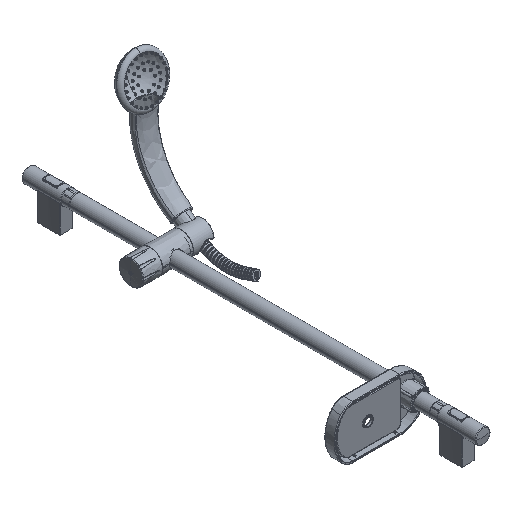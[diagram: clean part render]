
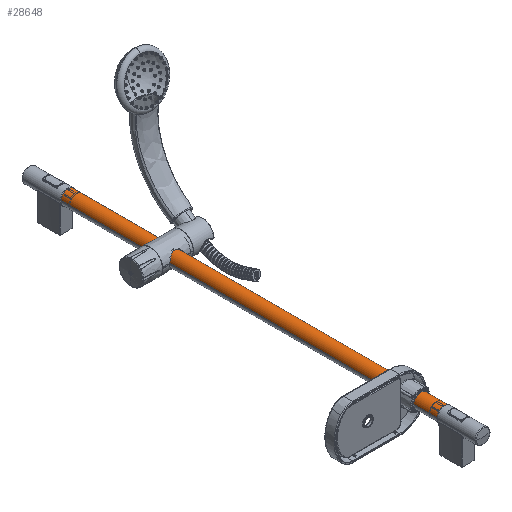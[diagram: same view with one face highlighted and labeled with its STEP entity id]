
A CAD part, isometric view. The second image highlights one B-rep face of the part: STEP entity #28648.
In plain terms, the highlighted cylindrical face has radius 11 mm (diameter 22 mm), a partial arc.
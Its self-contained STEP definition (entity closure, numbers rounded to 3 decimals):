
#4681=DIRECTION('',(0.,-1.,0.));
#4682=VECTOR('',#4681,584.);
#4683=CARTESIAN_POINT('',(22.,584.,11.));
#4684=LINE('',#4683,#4682);
#4685=CARTESIAN_POINT('',(11.,0.,11.));
#4686=DIRECTION('',(0.,-1.,0.));
#4687=DIRECTION('',(1.,0.,0.));
#4688=AXIS2_PLACEMENT_3D('',#4685,#4686,#4687);
#4690=CARTESIAN_POINT('',(11.,584.,11.));
#4691=DIRECTION('',(0.,1.,0.));
#4692=DIRECTION('',(-1.,0.,0.));
#4693=AXIS2_PLACEMENT_3D('',#4690,#4691,#4692);
#4695=CARTESIAN_POINT('',(11.,56.518,11.));
#4696=DIRECTION('',(0.,-1.,0.));
#4697=DIRECTION('',(0.681,0.,0.732));
#4698=AXIS2_PLACEMENT_3D('',#4695,#4696,#4697);
#4700=DIRECTION('',(0.,-1.,0.));
#4701=VECTOR('',#4700,1.163);
#4702=CARTESIAN_POINT('',(18.492,57.682,19.054));
#4703=LINE('',#4702,#4701);
#4704=CARTESIAN_POINT('',(11.,57.682,11.));
#4705=DIRECTION('',(0.,-1.,0.));
#4706=DIRECTION('',(0.681,0.,0.732));
#4707=AXIS2_PLACEMENT_3D('',#4704,#4705,#4706);
#4709=DIRECTION('',(0.,-1.,0.));
#4710=VECTOR('',#4709,1.163);
#4711=CARTESIAN_POINT('',(3.508,57.682,19.054));
#4712=LINE('',#4711,#4710);
#4713=DIRECTION('',(0.,-1.,0.));
#4714=VECTOR('',#4713,1.163);
#4715=CARTESIAN_POINT('',(3.508,42.682,19.054));
#4716=LINE('',#4715,#4714);
#4717=CARTESIAN_POINT('',(11.,41.518,11.));
#4718=DIRECTION('',(0.,-1.,0.));
#4719=DIRECTION('',(0.681,0.,0.732));
#4720=AXIS2_PLACEMENT_3D('',#4717,#4718,#4719);
#4722=DIRECTION('',(0.,-1.,0.));
#4723=VECTOR('',#4722,1.163);
#4724=CARTESIAN_POINT('',(18.492,42.682,19.054));
#4725=LINE('',#4724,#4723);
#4726=CARTESIAN_POINT('',(11.,42.682,11.));
#4727=DIRECTION('',(0.,-1.,0.));
#4728=DIRECTION('',(0.681,0.,0.732));
#4729=AXIS2_PLACEMENT_3D('',#4726,#4727,#4728);
#4736=DIRECTION('',(0.,-1.,0.));
#4737=VECTOR('',#4736,584.);
#4738=CARTESIAN_POINT('',(0.,584.,
11.));
#4739=LINE('',#4738,#4737);
#20434=CARTESIAN_POINT('',(0.,0.,11.));
#20436=VERTEX_POINT('',#20434);
#20439=CARTESIAN_POINT('',(22.,0.,11.));
#20441=VERTEX_POINT('',#20439);
#21002=CARTESIAN_POINT('',(0.,584.,11.));
#21004=VERTEX_POINT('',#21002);
#21006=CARTESIAN_POINT('',(22.,584.,11.));
#21008=VERTEX_POINT('',#21006);
#22223=CARTESIAN_POINT('',(18.492,56.518,19.054));
#22224=CARTESIAN_POINT('',(3.508,56.518,19.054));
#22225=VERTEX_POINT('',#22223);
#22226=VERTEX_POINT('',#22224);
#22227=CARTESIAN_POINT('',(18.492,57.682,19.054));
#22228=CARTESIAN_POINT('',(3.508,57.682,19.054));
#22229=VERTEX_POINT('',#22227);
#22230=VERTEX_POINT('',#22228);
#22231=CARTESIAN_POINT('',(3.508,42.682,19.054));
#22232=CARTESIAN_POINT('',(3.508,41.518,19.054));
#22233=VERTEX_POINT('',#22231);
#22234=VERTEX_POINT('',#22232);
#22235=CARTESIAN_POINT('',(18.492,41.518,19.054));
#22236=VERTEX_POINT('',#22235);
#22237=CARTESIAN_POINT('',(18.492,42.682,19.054));
#22238=VERTEX_POINT('',#22237);
#28614=CARTESIAN_POINT('',(11.,614.4,11.));
#28615=DIRECTION('',(0.,-1.,0.));
#28616=DIRECTION('',(-1.,0.,0.));
#28617=AXIS2_PLACEMENT_3D('',#28614,#28615,#28616);
#28618=CYLINDRICAL_SURFACE('',#28617,11.);
#28620=ORIENTED_EDGE('',*,*,#28619,.T.);
#28622=ORIENTED_EDGE('',*,*,#28621,.T.);
#28624=ORIENTED_EDGE('',*,*,#28623,.F.);
#28626=ORIENTED_EDGE('',*,*,#28625,.T.);
#28627=EDGE_LOOP('',(#28620,#28622,#28624,#28626));
#28628=FACE_OUTER_BOUND('',#28627,.F.);
#28630=ORIENTED_EDGE('',*,*,#28629,.F.);
#28632=ORIENTED_EDGE('',*,*,#28631,.F.);
#28633=ORIENTED_EDGE('',*,*,#28597,.T.);
#28635=ORIENTED_EDGE('',*,*,#28634,.T.);
#28636=EDGE_LOOP('',(#28630,#28632,#28633,#28635));
#28637=FACE_BOUND('',#28636,.F.);
#28639=ORIENTED_EDGE('',*,*,#28638,.T.);
#28641=ORIENTED_EDGE('',*,*,#28640,.F.);
#28643=ORIENTED_EDGE('',*,*,#28642,.F.);
#28645=ORIENTED_EDGE('',*,*,#28644,.T.);
#28646=EDGE_LOOP('',(#28639,#28641,#28643,#28645));
#28647=FACE_BOUND('',#28646,.F.);
#28648=ADVANCED_FACE('',(#28628,#28637,#28647),#28618,.T.);
#4689=CIRCLE('',#4688,11.);
#4694=CIRCLE('',#4693,11.);
#4699=CIRCLE('',#4698,11.);
#4708=CIRCLE('',#4707,11.);
#4721=CIRCLE('',#4720,11.);
#4730=CIRCLE('',#4729,11.);
#28597=EDGE_CURVE('',#22229,#22230,#4708,.T.);
#28619=EDGE_CURVE('',#21008,#20441,#4684,.T.);
#28621=EDGE_CURVE('',#20441,#20436,#4689,.T.);
#28623=EDGE_CURVE('',#21004,#20436,#4739,.T.);
#28625=EDGE_CURVE('',#21004,#21008,#4694,.T.);
#28629=EDGE_CURVE('',#22225,#22226,#4699,.T.);
#28631=EDGE_CURVE('',#22229,#22225,#4703,.T.);
#28634=EDGE_CURVE('',#22230,#22226,#4712,.T.);
#28638=EDGE_CURVE('',#22233,#22234,#4716,.T.);
#28640=EDGE_CURVE('',#22236,#22234,#4721,.T.);
#28642=EDGE_CURVE('',#22238,#22236,#4725,.T.);
#28644=EDGE_CURVE('',#22238,#22233,#4730,.T.);
